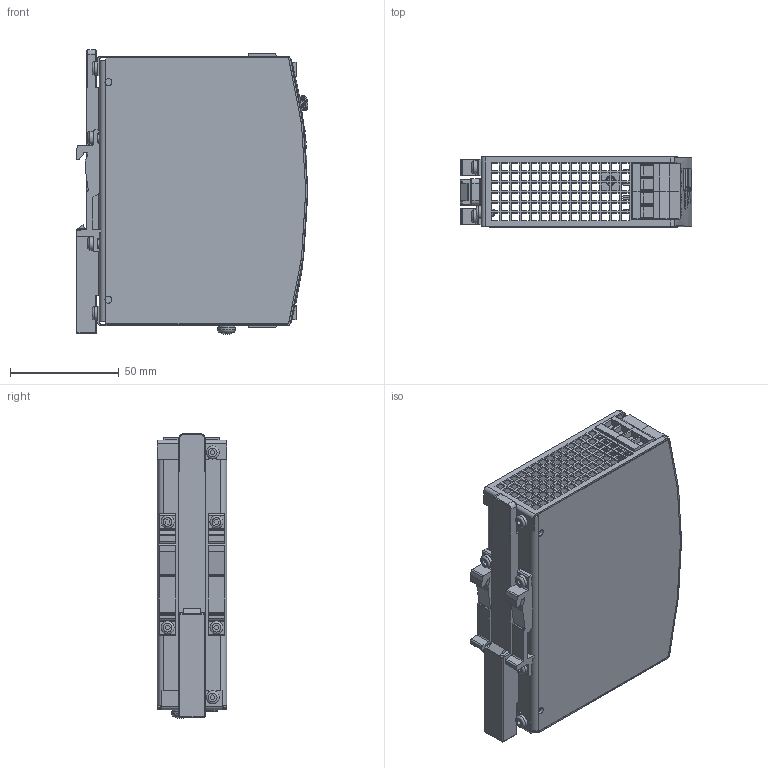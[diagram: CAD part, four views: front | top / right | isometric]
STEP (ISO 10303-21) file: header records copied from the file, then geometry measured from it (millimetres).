
FILE_DESCRIPTION(/* description */ (''),/* implementation_level */ '2;1');
FILE_NAME(/* name */ 'L:\MKT-GER\Neue Webdokumente\Daten von KO\Internet\CP5.481 (AN-435.05)\md3_cp5_481.stp',/* time_stamp */ '2019-05-21T08:11:59+02:00',/* author */ ('rahns'),/* organization */ (''),/* preprocessor_version */ 'ST-DEVELOPER v17',/* originating_system */ 'Autodesk Inventor 2018',/* authorisation */ '');
FILE_SCHEMA (('AUTOMOTIVE_DESIGN { 1 0 10303 214 3 1 1 }'));
Products named in the file (14): 435.05; HOUSING BODY 435.00; MKT_SLIDER; MKT_T HOLDER1; MKT_SCREW 3x6; HOUSING COVER 435.00; FRONTFOIL 435.05; MKT_SCREW 4x8; MKT_SPRING WASHER A4; MKT_LP2BK-D1; MKT_LP3BK-D1; MKT_LED GN; MKT_POTI COVER; MKT_LP2SW-R6
Assembly tree (20 placements, depth 2):
  435.05
    HOUSING BODY 435.00
    MKT_SLIDER
    MKT_SCREW 3x6  x6
    MKT_T HOLDER1  x2
    HOUSING COVER 435.00
    FRONTFOIL 435.05
    MKT_SCREW 4x8
    MKT_SPRING WASHER A4
    MKT_LP2BK-D1  x2
    MKT_LP3BK-D1
    MKT_LED GN
    MKT_POTI COVER
    MKT_LP2SW-R6
Bounding box: 106.6 x 32 x 130.77 mm (x, y, z)
Volume: 69682.7 mm3; surface area: 91556 mm2
Topology: 21 solids, 21 shells, 2117 faces, 5806 edges, 3836 vertices
Faces by surface type: plane 1618, cylinder 240, bspline 197, torus 25, cone 24, sphere 13
Full cylindrical faces by diameter (mm): 0.3 x4, 2.45 x2, 2.7 x1, 3 x6, 3.1 x4, 3.2 x3, 3.621 x1, 4 x1, 4.355 x1, 4.5 x2, 4.6 x1, 5.15 x7, 6 x6
Entity records: 68144 total; most frequent: CARTESIAN_POINT 19562, ORIENTED_EDGE 10358, DIRECTION 8829, EDGE_CURVE 5179, LINE 4029, VECTOR 4029, VERTEX_POINT 3420, AXIS2_PLACEMENT_3D 2400
